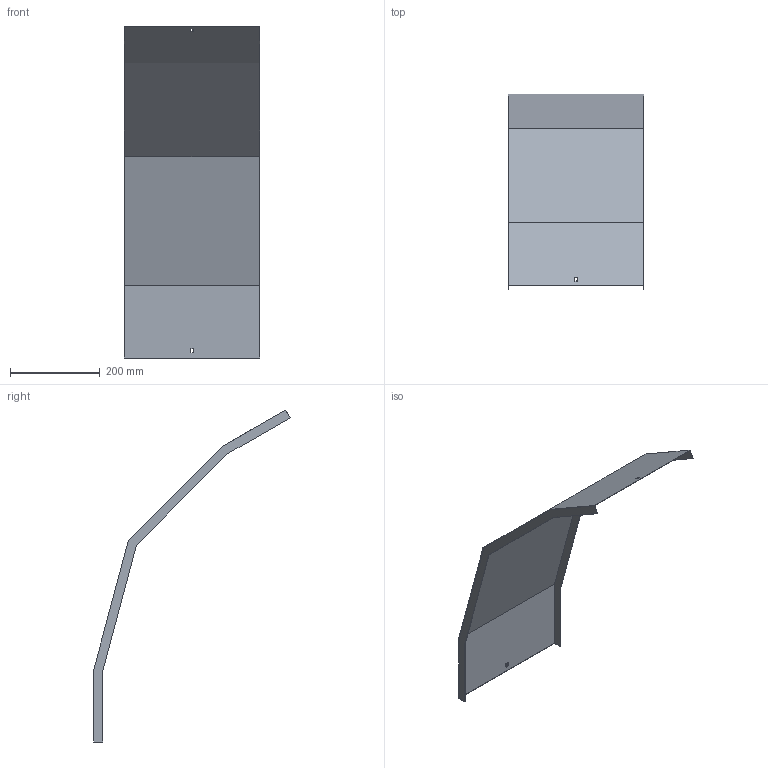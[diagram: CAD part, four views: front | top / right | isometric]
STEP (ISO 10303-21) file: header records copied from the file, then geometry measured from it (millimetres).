
FILE_DESCRIPTION (( 'STEP AP214' ), '1' );
FILE_NAME ('41N5C300.step', '2025-02-21T10:37:33', ( '' ), ( '' ), 'SwSTEP 2.0', 'SolidWorks 2023', '' );
FILE_SCHEMA (( 'AUTOMOTIVE_DESIGN' ));
Length unit declared in the file: millimetre
Products named in the file (1): 41N5C300
Bounding box: 303 x 437.72 x 740.83 mm (x, y, z)
Volume: 467646 mm3; surface area: 627337.4 mm2
Topology: 1 solids, 1 shells, 30 faces, 84 edges, 56 vertices
Faces by surface type: plane 30
Entity records: 979 total; most frequent: CARTESIAN_POINT 171, ORIENTED_EDGE 168, DIRECTION 146, EDGE_CURVE 84, LINE 84, VECTOR 84, VERTEX_POINT 56, EDGE_LOOP 34
